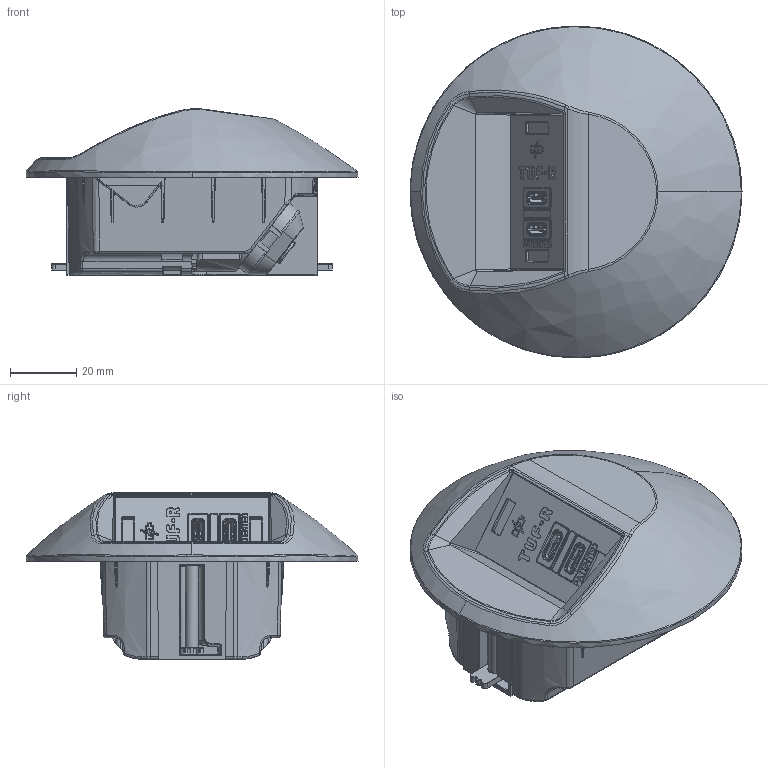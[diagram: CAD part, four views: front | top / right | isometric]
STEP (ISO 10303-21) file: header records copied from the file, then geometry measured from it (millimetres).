
FILE_DESCRIPTION (( 'STEP AP214' ), '1' );
FILE_NAME ('QikTrek-Round.STEP', '2025-04-09T11:04:24', ( '' ), ( '' ), 'SwSTEP 2.0', 'SolidWorks 2024', '' );
FILE_SCHEMA (( 'AUTOMOTIVE_DESIGN' ));
Length unit declared in the file: millimetre
Products named in the file (1): QikTrek-Round
Bounding box: 100 x 100 x 50.2 mm (x, y, z)
Volume: 200297.2 mm3; surface area: 46143.4 mm2
Topology: 4 solids, 25 shells, 4568 faces, 12229 edges, 7700 vertices
Faces by surface type: plane 2139, cylinder 1116, bspline 983, cone 145, torus 127, sphere 58
Entity records: 178684 total; most frequent: CARTESIAN_POINT 75505, ORIENTED_EDGE 24404, DIRECTION 17275, EDGE_CURVE 12202, VERTEX_POINT 7700, LINE 7005, VECTOR 7005, AXIS2_PLACEMENT_3D 5135
